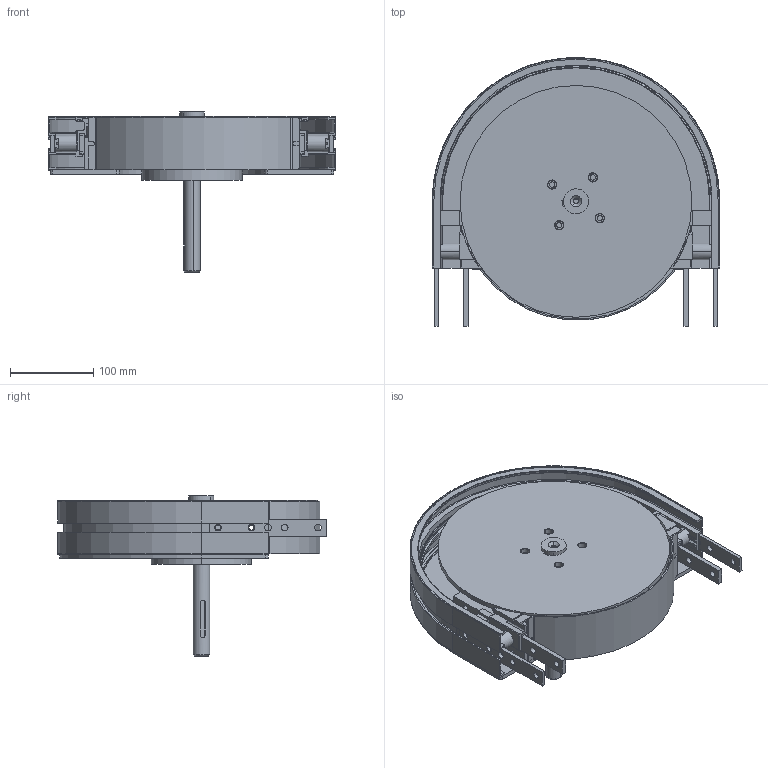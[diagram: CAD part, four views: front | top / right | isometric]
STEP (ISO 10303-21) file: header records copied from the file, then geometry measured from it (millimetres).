
FILE_DESCRIPTION (( 'STEP AP214' ), '1' );
FILE_NAME ('FKWD-DD.STEP', '2017-04-07T12:03:35', ( '' ), ( '' ), 'SwSTEP 2.0', 'SolidWorks 2016', '' );
FILE_SCHEMA (( 'AUTOMOTIVE_DESIGN' ));
Length unit declared in the file: millimetre
Products named in the file (1): FKWD-DD
Bounding box: 345 x 322.5 x 192 mm (x, y, z)
Volume: 2120065.9 mm3; surface area: 703407 mm2
Topology: 24 solids, 24 shells, 807 faces, 2107 edges, 1369 vertices
Faces by surface type: cylinder 387, plane 348, cone 44, bspline 28
Entity records: 36992 total; most frequent: CARTESIAN_POINT 7304, DIRECTION 4357, ORIENTED_EDGE 4214, EDGE_CURVE 2107, AXIS2_PLACEMENT_3D 1578, VERTEX_POINT 1369, LINE 1201, VECTOR 1201
